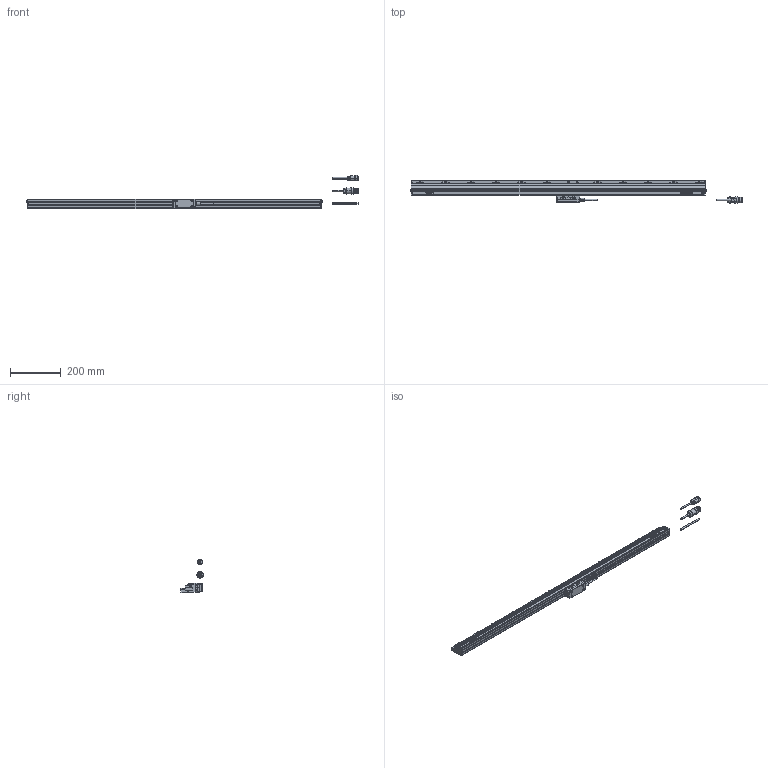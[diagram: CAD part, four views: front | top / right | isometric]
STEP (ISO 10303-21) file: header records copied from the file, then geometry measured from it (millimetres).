
FILE_DESCRIPTION(('Creo Elements/Direct Modeling STEP Export'),'2;1');
FILE_NAME('AT402E-1040.stp','2018-02-21T11:59:33',(''),(''),'Creo Elements/Direct Modeling STEP processor for AP214 (Solid Model)','Creo Elements/Direct Modeling 18.1B 29-Sep-2012 (C) Parametric Technology GmbH','');
FILE_SCHEMA(('AUTOMOTIVE_DESIGN { 1 0 10303 214 1 1 1 1 }'));
Length unit declared in the file: millimetre
Products named in the file (6): Scale_1040; Detector_Head; Connector_typeC; Connector_typeB; Connector_typeA; AT402E-1040
Assembly tree (5 placements, depth 2):
  AT402E-1040
    Connector_typeA
    Connector_typeB
    Connector_typeC
    Detector_Head
    Scale_1040
Bounding box: 1309.63 x 90 x 130.25 mm (x, y, z)
Volume: 1976251.3 mm3; surface area: 263768.7 mm2
Topology: 5 solids, 5 shells, 1259 faces, 3661 edges, 2480 vertices
Faces by surface type: plane 704, cylinder 421, torus 50, bspline 46, cone 26, sphere 12
Entity records: 46849 total; most frequent: CARTESIAN_POINT 14070, ORIENTED_EDGE 7322, DIRECTION 6319, EDGE_CURVE 3661, VERTEX_POINT 2480, VECTOR 2161, LINE 2161, AXIS2_PLACEMENT_3D 2079
